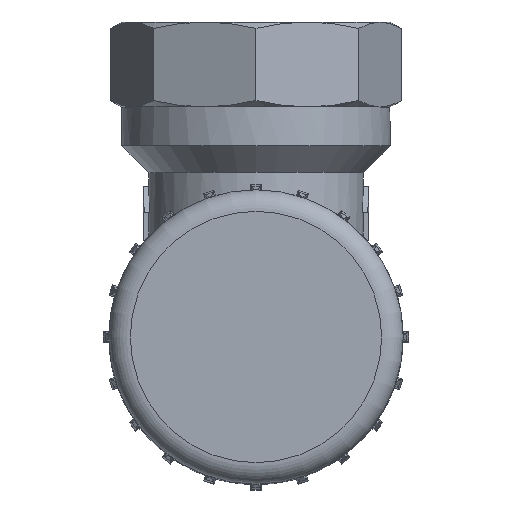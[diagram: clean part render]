
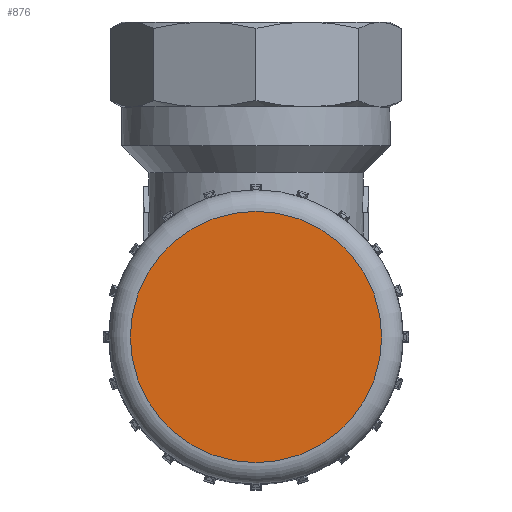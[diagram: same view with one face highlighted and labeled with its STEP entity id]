
A CAD part, top view. The second image highlights one B-rep face of the part: STEP entity #876.
In plain terms, the highlighted planar face has unit normal (0, 0, 1).
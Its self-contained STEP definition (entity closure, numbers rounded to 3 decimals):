
#876=ADVANCED_FACE('',(#2276),#2278,.F.);
#2276=FACE_BOUND('',#2277,.T.);
#2277=EDGE_LOOP('',(#13995));
#2278=PLANE('',#2279);
#2279=AXIS2_PLACEMENT_3D('',#2280,#2281,#2282);
#2280=CARTESIAN_POINT('',(0.,0.,55.8));
#2281=DIRECTION('',(0.,0.,-1.));
#2282=DIRECTION('',(-1.,0.,0.));
#13995=ORIENTED_EDGE('',*,*,#22047,.F.);
#22047=EDGE_CURVE('',#25616,#25616,#25617,.T.);
#25616=VERTEX_POINT('',#31549);
#25617=CIRCLE('',#31550,11.7);
#31549=CARTESIAN_POINT('',(-11.7,0.,55.8));
#31550=AXIS2_PLACEMENT_3D('',#31551,#31552,#31553);
#31551=CARTESIAN_POINT('',(0.,0.,55.8));
#31552=DIRECTION('',(0.,0.,-1.));
#31553=DIRECTION('',(-1.,0.,0.));
